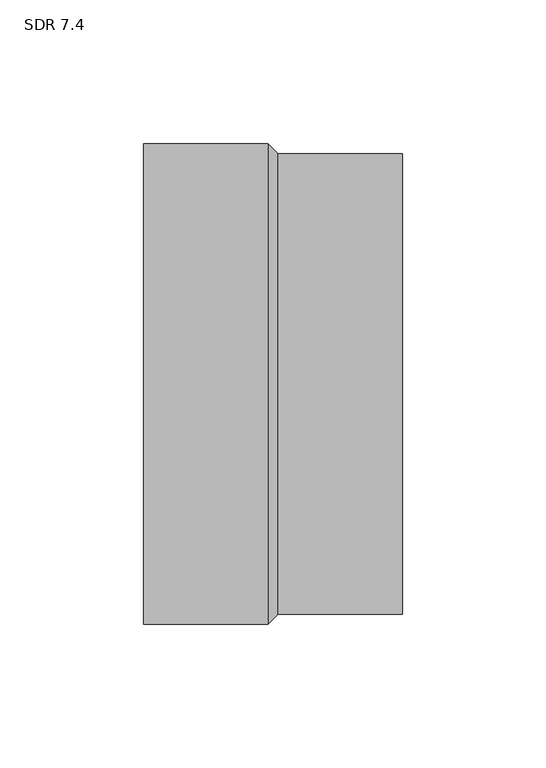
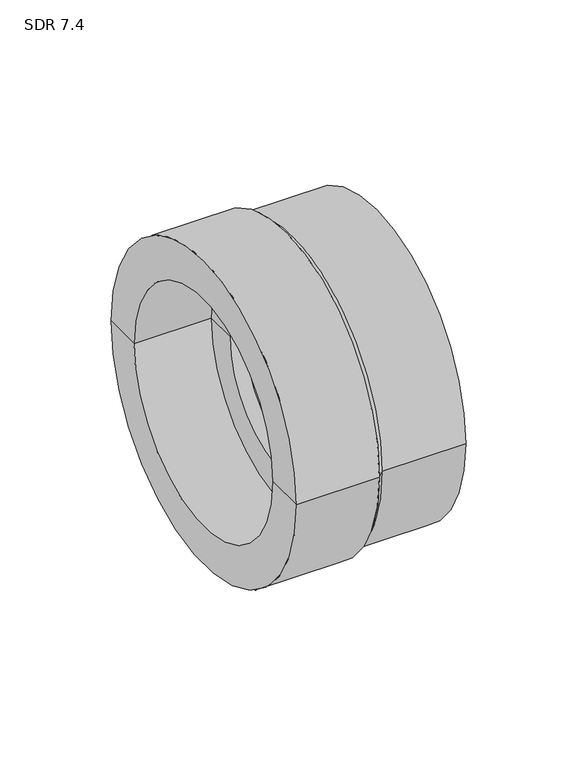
"""IFC4 building model written with IfcOpenShell, lengths in millimetres: pipe fitting geometry, Aquatherm - Reducing Coupling Butt Weld to Socket : SDR 7.4."""

from ifc_helpers import new_model, si_unit, frame, origin, place, context, project, spatial, polyline, circle_curve, source, transform, mapped, element, save
from ifc_brep_helpers import plane_surface, cylinder_surface, revolved_surface, advanced_brep


def sdr_7_4_d15a149f(model_context):
    return source(origin(), model_context, "Body", "AdvancedBrep", [
        advanced_brep(
        [(-84.836, -83.439, 0.0), (-84.836, 83.439, 0.0), (-41.5925, 83.439, 0.0), (-41.5925, -83.439, 0.0), (-84.836, -62.484, 0.0), (-84.836, 62.484, 0.0), (5.08, -58.547, 0.0), (5.08, 58.547, 0.0), (-16.129, 58.547, 0.0), (-16.129, -58.547, 0.0), (5.08, -80.01, 0.0), (5.08, 80.01, 0.0), (-44.958, -62.484, 0.0), (-44.958, 62.484, 0.0), (-44.958, -45.593, 0.0), (-44.958, 45.593, 0.0), (-37.338, -45.593, 0.0), (-37.338, 45.593, 0.0), (-38.1635, -80.01, 0.0), (-38.1635, 80.01, 0.0)],
        [
            (0, 1, circle_curve(frame((-84.836, 0.0, 0.0), z_axis=(1.0, 0.0, 0.0), x_axis=(0.0, 1.0, 0.0)), 83.439)),
            (1, 2),
            (2, 3, circle_curve(frame((-41.5925, 0.0, 0.0), z_axis=(-1.0, 0.0, 0.0), x_axis=(0.0, 1.0, 0.0)), 83.439)),
            (3, 0),
            (1, 0, circle_curve(frame((-84.836, 0.0, 0.0), z_axis=(1.0, 0.0, 0.0), x_axis=(0.0, 1.0, 0.0)), 83.439)),
            (3, 2, circle_curve(frame((-41.5925, 0.0, 0.0), z_axis=(-1.0, 0.0, 0.0), x_axis=(0.0, 1.0, 0.0)), 83.439)),
            (4, 5, circle_curve(frame((-84.836, 0.0, 0.0), z_axis=(1.0, 0.0, 0.0), x_axis=(0.0, 1.0, 0.0)), 62.484)),
            (5, 1),
            (0, 4),
            (5, 4, circle_curve(frame((-84.836, 0.0, 0.0), z_axis=(1.0, 0.0, 0.0), x_axis=(0.0, 1.0, 0.0)), 62.484)),
            (6, 7, circle_curve(frame((5.08, 0.0, 0.0), z_axis=(1.0, 0.0, 0.0), x_axis=(0.0, 1.0, 0.0)), 58.547)),
            (7, 8),
            (8, 9, circle_curve(frame((-16.129, 0.0, 0.0), z_axis=(-1.0, 0.0, 0.0), x_axis=(0.0, 1.0, 0.0)), 58.547)),
            (9, 6),
            (7, 6, circle_curve(frame((5.08, 0.0, 0.0), z_axis=(1.0, 0.0, 0.0), x_axis=(0.0, 1.0, 0.0)), 58.547)),
            (9, 8, circle_curve(frame((-16.129, 0.0, 0.0), z_axis=(-1.0, 0.0, 0.0), x_axis=(0.0, 1.0, 0.0)), 58.547)),
            (10, 11, circle_curve(frame((5.08, 0.0, 0.0), z_axis=(1.0, 0.0, 0.0), x_axis=(0.0, 1.0, 0.0)), 80.01)),
            (11, 7),
            (6, 10),
            (11, 10, circle_curve(frame((5.08, 0.0, 0.0), z_axis=(1.0, 0.0, 0.0), x_axis=(0.0, 1.0, 0.0)), 80.01)),
            (12, 13, circle_curve(frame((-44.958, 0.0, 0.0), z_axis=(1.0, 0.0, 0.0), x_axis=(0.0, 1.0, 0.0)), 62.484)),
            (13, 5),
            (4, 12),
            (13, 12, circle_curve(frame((-44.958, 0.0, 0.0), z_axis=(1.0, 0.0, 0.0), x_axis=(0.0, 1.0, 0.0)), 62.484)),
            (14, 15, circle_curve(frame((-44.958, 0.0, 0.0), z_axis=(1.0, 0.0, 0.0), x_axis=(0.0, 1.0, 0.0)), 45.593)),
            (15, 13),
            (12, 14),
            (15, 14, circle_curve(frame((-44.958, 0.0, 0.0), z_axis=(1.0, 0.0, 0.0), x_axis=(0.0, 1.0, 0.0)), 45.593)),
            (16, 17, circle_curve(frame((-37.338, 0.0, 0.0), z_axis=(1.0, 0.0, 0.0), x_axis=(0.0, 1.0, 0.0)), 45.593)),
            (17, 15),
            (14, 16),
            (17, 16, circle_curve(frame((-37.338, 0.0, 0.0), z_axis=(1.0, 0.0, 0.0), x_axis=(0.0, 1.0, 0.0)), 45.593)),
            (18, 19, circle_curve(frame((-38.1635, 0.0, 0.0), z_axis=(1.0, 0.0, 0.0), x_axis=(0.0, 1.0, 0.0)), 80.01)),
            (19, 11),
            (10, 18),
            (19, 18, circle_curve(frame((-38.1635, 0.0, 0.0), z_axis=(1.0, 0.0, 0.0), x_axis=(0.0, 1.0, 0.0)), 80.01)),
            (8, 17),
            (16, 9),
            (2, 19),
            (18, 3),
        ],
        [
            cylinder_surface(frame((-116.9032293, 0.0, 0.0), z_axis=(-1.0, 0.0, 0.0), x_axis=(0.0, 1.0, 0.0)), 83.439),
            plane_surface(frame((-84.836, 0.0, 0.0), z_axis=(-1.0, 0.0, 0.0), x_axis=(0.0, 1.0, 0.0))),
            revolved_surface(polyline([(-16.129000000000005, 58.547, 0.0), (5.079999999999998, 58.547, 0.0)]), (-116.9032293, 0.0, 0.0), (-1.0, 0.0, 0.0)),
            plane_surface(frame((5.08, 0.0, 0.0), z_axis=(1.0, 0.0, 0.0), x_axis=(0.0, 1.0, 0.0))),
            revolved_surface(polyline([(-84.836, 62.484, 0.0), (-44.958, 62.484, 0.0)]), (-116.9032293, 0.0, 0.0), (-1.0, 0.0, 0.0)),
            plane_surface(frame((-44.958, 0.0, 0.0), z_axis=(-1.0, 0.0, 0.0), x_axis=(0.0, 1.0, 0.0))),
            revolved_surface(polyline([(-44.958, 45.593, 0.0), (-37.33800000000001, 45.593, 0.0)]), (-116.9032293, 0.0, 0.0), (-1.0, 0.0, 0.0)),
            cylinder_surface(frame((-116.9032293, 0.0, 0.0), z_axis=(-1.0, 0.0, 0.0), x_axis=(0.0, 1.0, 0.0)), 80.01),
            revolved_surface(polyline([(-37.338, 45.593, 0.0), (-16.129, 58.547, 0.0)]), (-116.9032293, 0.0, 0.0), (-1.0, 0.0, 0.0)),
            revolved_surface(polyline([(-38.1635, 80.01, 0.0), (-41.5925, 83.439, 0.0)]), (-116.9032293, 0.0, 0.0), (-1.0, 0.0, 0.0)),
        ],
        [
            (0, [[1, 2, 3, 4]]),
            (0, [[5, -4, 6, -2]]),
            (1, [[7, 8, -1, 9]]),
            (1, [[10, -9, -5, -8]]),
            (2, [[11, 12, 13, 14]]),
            (2, [[15, -14, 16, -12]]),
            (3, [[17, 18, -11, 19]]),
            (3, [[20, -19, -15, -18]]),
            (4, [[21, 22, -7, 23]]),
            (4, [[24, -23, -10, -22]]),
            (5, [[25, 26, -21, 27]]),
            (5, [[28, -27, -24, -26]]),
            (6, [[29, 30, -25, 31]]),
            (6, [[32, -31, -28, -30]]),
            (7, [[33, 34, -17, 35]]),
            (7, [[36, -35, -20, -34]]),
            (8, [[-13, 37, -29, 38]]),
            (8, [[-16, -38, -32, -37]]),
            (9, [[-3, 39, -33, 40]]),
            (9, [[-6, -40, -36, -39]]),
        ],
    ),
    ])


if __name__ == "__main__":
    model = new_model("IFC4")
    model_context = context("Model", 3, world=origin())
    ifc_project = project(units=[si_unit("LENGTHUNIT", "METRE", prefix="MILLI")], contexts=[model_context])
    site = spatial("IfcSite", under=ifc_project)
    building = spatial("IfcBuilding", under=site)
    placement = place(None, origin())
    sdr_7_4_shape = sdr_7_4_d15a149f(model_context)
    element("IfcPipeFitting", 1, ObjectType="Aquatherm - Reducing Coupling Butt Weld to Socket : SDR 7.4", at=placement, inside=building, context=model_context, shape_type="MappedRepresentation", body=[
        mapped(sdr_7_4_shape, transform((0.0, 0.0, 0.0), x_axis=(1.0, 0.0, 0.0), y_axis=(0.0, 1.0, 0.0), z_axis=(0.0, 0.0, 1.0))),
    ])
    save(model, "model.ifc")
